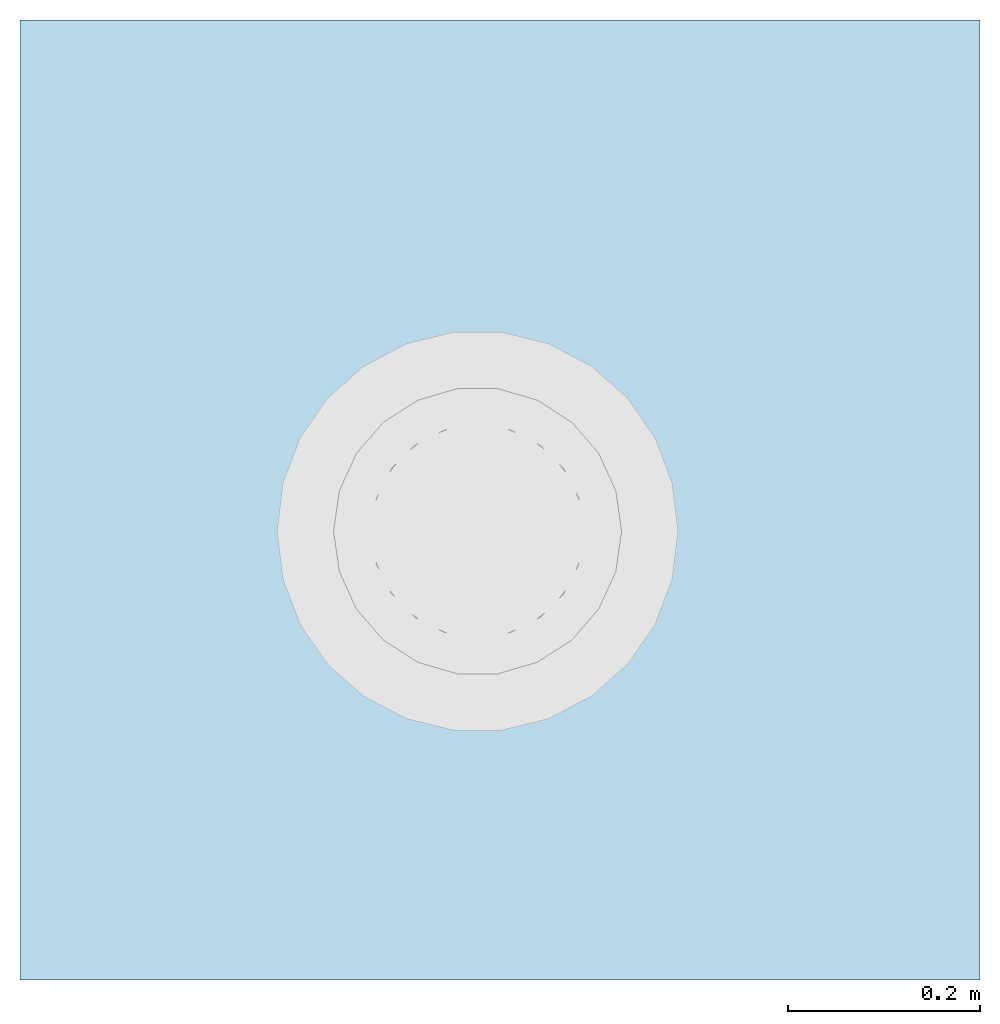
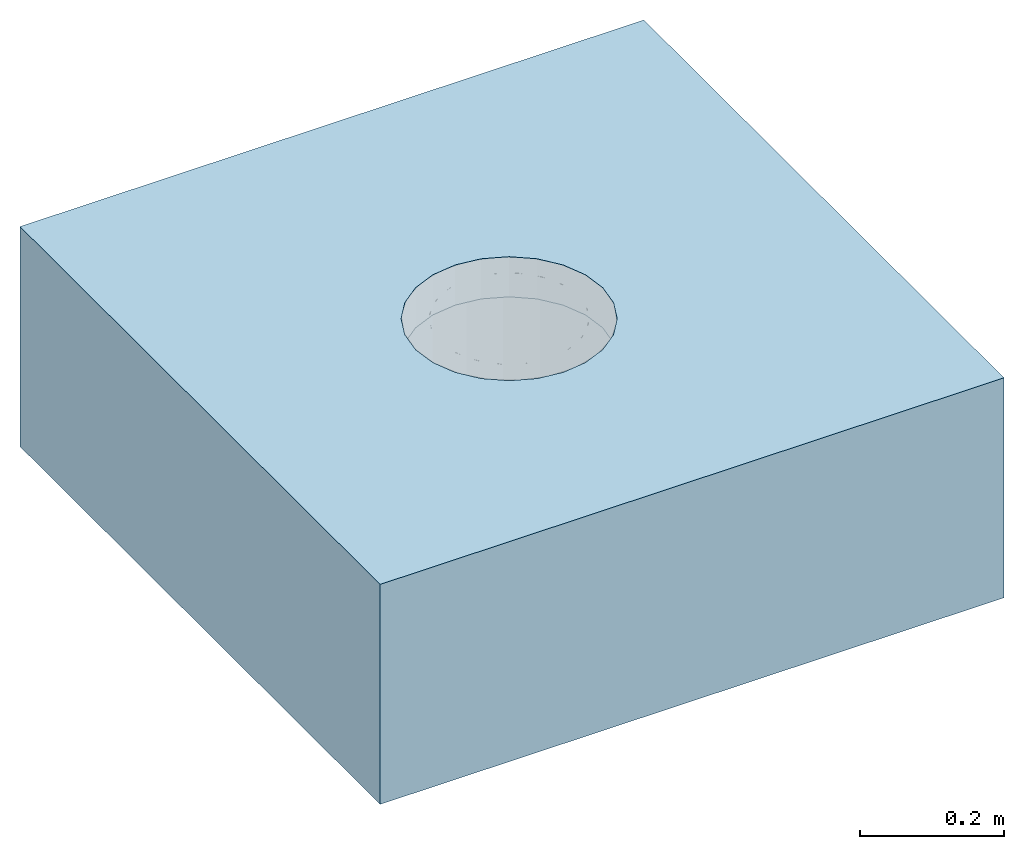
# One storey, incomplete: 1 slab, 1 opening.
"""IFC2X3 building model written with IfcOpenShell, lengths in millimetres."""

from ifc_helpers import new_model, entity, si_unit, converted_unit, derived_unit, direction, frame, frame_2d, origin, place, context, subcontext, project, spatial, rectangle, extrude, faceted_brep, material, layer, layer_set, layer_usage, element, save


model = new_model("IFC2X3")

# Units and contexts
model_context = context("Model", 3, precision=1e-05, world=origin(), true_north=direction((2.0, 6.12303176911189e-17, 1.0)))
context_of_model = context(None, 3, precision=1e-05, world=origin(), true_north=direction((2.0, 6.12303176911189e-17, 1.0)))
body_context = subcontext(model_context, "Body", "Model", "MODEL_VIEW")
ifc_project = project(units=[si_unit("LENGTHUNIT", "METRE", prefix="MILLI"), converted_unit("AREAUNIT", "SQUARE FOOT", entity("IfcRatioMeasure", 0.09290304), si_unit("AREAUNIT", "SQUARE_METRE"), dimensions=[2, 0, 0, 0, 0, 0, 0]), converted_unit("VOLUMEUNIT", "CUBIC FOOT", entity("IfcRatioMeasure", 0.028316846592), si_unit("VOLUMEUNIT", "CUBIC_METRE"), dimensions=[3, 0, 0, 0, 0, 0, 0]), converted_unit("PLANEANGLEUNIT", "DEGREE", entity("IfcRatioMeasure", 0.0174532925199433), si_unit("PLANEANGLEUNIT", "RADIAN"), dimensions=[0, 0, 0, 0, 0, 0, 0]), si_unit("MASSUNIT", "GRAM", prefix="KILO"), si_unit("TIMEUNIT", "SECOND"), si_unit("THERMODYNAMICTEMPERATUREUNIT", "KELVIN"), derived_unit("THERMALTRANSMITTANCEUNIT", [(si_unit("MASSUNIT", "GRAM", prefix="KILO"), 1), (si_unit("THERMODYNAMICTEMPERATUREUNIT", "KELVIN"), -1), (si_unit("TIMEUNIT", "SECOND"), -3)]), derived_unit("VOLUMETRICFLOWRATEUNIT", [(si_unit("LENGTHUNIT", "METRE"), 3), (si_unit("TIMEUNIT", "SECOND"), -1)]), si_unit("POWERUNIT", "WATT")], contexts=[model_context, context_of_model])

# Site, building, storey
site_placement = place(None, origin())
site = spatial("IfcSite", under=ifc_project, at=site_placement, Name="Default", CompositionType="ELEMENT")
building_placement = place(site_placement, origin())
building = spatial("IfcBuilding", under=site, at=building_placement, CompositionType="ELEMENT")
storey_placement = place(building_placement, origin())
storey = spatial("IfcBuildingStorey", under=building, at=storey_placement, Name="Level 1", CompositionType="ELEMENT", Elevation=0.0)

# Slab, opening
ifc_material_1 = material(Name="Plywood, Sheathing")
ifc_layer_1 = layer(ifc_material_1, 68.0)
ifc_material_2 = material(Name="Default Floor")
ifc_layer_2 = layer(ifc_material_2, 304.8)
ifc_layer_set = layer_set([ifc_layer_1, ifc_layer_2], Name="Floor:Generic - 12\"")
ifc_layer_usage = layer_usage(ifc_layer_set, "AXIS3", "POSITIVE", 0.0)
slab_placement = place(storey_placement, frame((-10598.0627721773, 2392.60708548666, -372.8)))
slab = element("IfcSlab", 1, at=slab_placement, inside=storey, material=ifc_layer_usage, Name="Floor:Generic - 12\"", ObjectType="Floor:Generic - 12\"", PredefinedType="FLOOR", context=body_context, shape_type="SweptSolid", body=[
    extrude(rectangle(XDim=1000.0, YDim=1000.0, at=frame_2d((0.0, 0.0), x_axis=(0.0, -1.0))), frame((500.0, 500.0, 372.8), z_axis=(0.0, 0.0, -1.0), x_axis=(-1.0, 0.0, 0.0)), (0.0, 0.0, 1.0), 372.8),
])
opening_placement = place(slab_placement, frame((264.098251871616, 253.374336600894, 57.799999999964)))
element("IfcOpeningElement", 2, at=opening_placement, cuts=slab, ObjectType="Recess", context=body_context, shape_type="Brep", body=[
    faceted_brep([(357.432614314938, 175.272996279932, 315.0), (212.545907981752, 64.097516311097, 315.0), (251.368183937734, 69.2085659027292, 315.0), (318.610338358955, 108.030841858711, 315.0), (287.544785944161, 84.1934050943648, 315.0), (342.447775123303, 139.096394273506, 315.0), (106.481477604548, 108.030841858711, 315.0), (357.432614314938, 252.917548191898, 315.0), (137.547030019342, 84.1934050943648, 315.0), (173.723632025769, 69.2085659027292, 315.0), (82.6440408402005, 139.096394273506, 315.0), (62.5481520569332, 214.095272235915, 315.0), (67.6592016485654, 175.272996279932, 315.0), (67.6592016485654, 252.917548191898, 315.0), (318.610338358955, 320.159702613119, 315.0), (342.447775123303, 289.094150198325, 315.0), (287.544785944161, 343.997139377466, 315.0), (251.368183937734, 358.981978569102, 315.0), (137.547030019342, 343.997139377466, 315.0), (106.481477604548, 320.159702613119, 315.0), (82.6440408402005, 289.094150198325, 315.0), (212.545907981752, 364.093028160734, 315.0), (173.723632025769, 358.981978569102, 315.0), (362.54366390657, 214.095272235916, 315.0), (357.432614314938, 252.917548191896, 247.0), (342.447775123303, 289.094150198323, 247.0), (362.54366390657, 214.095272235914, 247.0), (287.544785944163, 343.997139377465, 247.0), (251.368183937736, 358.981978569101, 247.0), (318.610338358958, 320.159702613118, 247.0), (212.545907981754, 364.093028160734, 247.0), (173.723632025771, 358.981978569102, 247.0), (137.547030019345, 343.997139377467, 247.0), (82.6440408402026, 289.094150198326, 247.0), (67.6592016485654, 252.917548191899, 247.0), (106.481477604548, 320.15970261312, 247.0), (62.5481520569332, 214.095272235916, 247.0), (67.6592016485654, 175.272996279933, 247.0), (82.6440408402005, 139.096394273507, 247.0), (137.547030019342, 84.1934050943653, 247.0), (173.723632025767, 69.2085659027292, 247.0), (106.481477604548, 108.030841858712, 247.0), (212.54590798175, 64.097516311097, 247.0), (251.368183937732, 69.2085659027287, 247.0), (287.544785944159, 84.1934050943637, 247.0), (318.610338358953, 108.03084185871, 247.0), (342.447775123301, 139.096394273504, 247.0), (357.432614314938, 175.27299627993, 247.0), (1.5952722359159, 188.48122768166, 0.0), (1.5952722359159, 239.709316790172, 0.0), (13.8549564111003, 289.448810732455, 0.0), (37.6618364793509, 334.809030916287, 0.0), (113.79223392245, 25.9358667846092, 0.0), (387.429979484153, 93.3815135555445, 0.0), (113.79223392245, 402.254677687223, 0.0), (71.6323431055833, 373.153806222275, 0.0), (13.8549564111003, 138.741733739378, 0.0), (37.6618364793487, 93.3815135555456, 0.0), (71.6323431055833, 55.036738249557, 0.0), (212.545907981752, 1.59527223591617, 0.0), (161.691329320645, 7.77013603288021, 0.0), (161.691329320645, 420.420408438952, 0.0), (353.459472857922, 373.153806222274, 0.0), (212.545907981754, 426.595272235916, 0.0), (263.400486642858, 420.420408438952, 0.0), (311.299582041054, 402.254677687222, 0.0), (423.496543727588, 188.481227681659, 0.0), (387.429979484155, 334.809030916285, 0.0), (423.496543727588, 239.709316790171, 0.0), (411.236859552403, 289.448810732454, 0.0), (263.400486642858, 7.77013603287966, 0.0), (353.45947285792, 55.0367382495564, 0.0), (311.299582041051, 25.9358667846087, 0.0), (411.236859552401, 138.741733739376, 0.0), (411.236859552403, 289.448810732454, 247.0), (387.429979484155, 334.809030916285, 247.0), (423.496543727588, 239.709316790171, 247.0), (353.459472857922, 373.153806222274, 247.0), (311.299582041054, 402.254677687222, 247.0), (263.400486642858, 420.420408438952, 247.0), (212.545907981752, 426.595272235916, 247.0), (423.496543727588, 188.481227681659, 247.0), (411.236859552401, 138.741733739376, 247.0), (387.429979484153, 93.3815135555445, 247.0), (353.45947285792, 55.0367382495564, 247.0), (311.299582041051, 25.9358667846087, 247.0), (263.400486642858, 7.77013603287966, 247.0), (212.545907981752, 1.59527223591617, 247.0), (161.691329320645, 420.420408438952, 247.0), (113.79223392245, 402.254677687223, 247.0), (71.6323431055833, 373.153806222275, 247.0), (37.6618364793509, 334.809030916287, 247.0), (13.8549564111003, 289.448810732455, 247.0), (1.5952722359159, 239.709316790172, 247.0), (113.79223392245, 25.9358667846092, 247.0), (71.6323431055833, 55.036738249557, 247.0), (161.691329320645, 7.77013603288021, 247.0), (1.5952722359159, 188.48122768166, 247.0), (13.8549564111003, 138.741733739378, 247.0), (37.6618364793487, 93.3815135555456, 247.0)], [[[0, 1, 2]], [[3, 2, 4]], [[3, 5, 0]], [[3, 0, 2]], [[6, 1, 7]], [[1, 8, 9]], [[1, 6, 8]], [[10, 11, 12]], [[11, 10, 6]], [[6, 13, 11]], [[7, 1, 0]], [[13, 6, 7]], [[14, 7, 15]], [[14, 16, 17]], [[7, 14, 18]], [[17, 18, 14]], [[13, 19, 20]], [[19, 13, 18]], [[18, 21, 22]], [[18, 13, 7]], [[17, 21, 18]], [[7, 0, 23]], [[24, 25, 15]], [[26, 24, 7]], [[27, 28, 17]], [[29, 27, 16]], [[25, 29, 14]], [[24, 15, 7]], [[7, 23, 26]], [[14, 15, 25]], [[14, 29, 16]], [[16, 27, 17]], [[21, 17, 28]], [[28, 30, 21]], [[22, 30, 31]], [[22, 31, 32]], [[33, 34, 20]], [[35, 33, 19]], [[32, 35, 18]], [[22, 32, 18]], [[18, 35, 19]], [[34, 13, 20]], [[20, 19, 33]], [[11, 13, 36]], [[34, 36, 13]], [[30, 22, 21]], [[37, 38, 10]], [[36, 37, 12]], [[39, 40, 9]], [[41, 39, 8]], [[38, 41, 6]], [[37, 10, 12]], [[12, 11, 36]], [[9, 8, 39]], [[6, 41, 8]], [[6, 10, 38]], [[1, 9, 40]], [[40, 42, 1]], [[4, 43, 44]], [[2, 42, 43]], [[3, 45, 46]], [[45, 4, 44]], [[5, 46, 47]], [[2, 43, 4]], [[4, 45, 3]], [[47, 0, 5]], [[5, 3, 46]], [[23, 0, 26]], [[47, 26, 0]], [[42, 2, 1]], [[48, 49, 50]], [[51, 48, 50]], [[52, 51, 53]], [[54, 51, 55]], [[53, 51, 54]], [[56, 52, 57]], [[52, 56, 48]], [[58, 57, 52]], [[59, 60, 52]], [[51, 52, 48]], [[52, 53, 59]], [[54, 61, 53]], [[62, 63, 64]], [[62, 64, 65]], [[66, 62, 67]], [[62, 53, 63]], [[68, 67, 69]], [[70, 71, 72]], [[70, 59, 71]], [[66, 73, 62]], [[53, 62, 73]], [[59, 53, 71]], [[66, 67, 68]], [[53, 61, 63]], [[25, 74, 75]], [[29, 25, 75]], [[74, 24, 76]], [[24, 74, 25]], [[76, 24, 26]], [[75, 77, 29]], [[28, 78, 79]], [[30, 79, 80]], [[28, 79, 30]], [[29, 77, 27]], [[28, 27, 78]], [[27, 77, 78]], [[81, 26, 47]], [[26, 81, 76]], [[81, 47, 82]], [[82, 46, 83]], [[84, 83, 45]], [[46, 82, 47]], [[44, 85, 84]], [[44, 84, 45]], [[86, 85, 43]], [[43, 42, 86]], [[85, 44, 43]], [[86, 42, 87]], [[45, 83, 46]], [[30, 88, 31]], [[31, 88, 89]], [[32, 31, 89]], [[90, 35, 32]], [[32, 89, 90]], [[35, 91, 33]], [[33, 91, 92]], [[92, 34, 33]], [[34, 92, 93]], [[34, 93, 36]], [[91, 35, 90]], [[94, 39, 95]], [[40, 39, 94]], [[96, 87, 42]], [[96, 40, 94]], [[39, 41, 95]], [[42, 40, 96]], [[37, 36, 97]], [[97, 36, 93]], [[37, 97, 98]], [[99, 41, 38]], [[41, 99, 95]], [[98, 99, 38]], [[38, 37, 98]], [[30, 80, 88]], [[87, 59, 70]], [[72, 86, 70]], [[53, 73, 83]], [[84, 71, 53]], [[85, 72, 71]], [[82, 73, 66]], [[70, 86, 87]], [[72, 85, 86]], [[71, 84, 85]], [[53, 83, 84]], [[82, 83, 73]], [[66, 81, 82]], [[66, 68, 81]], [[76, 68, 69]], [[67, 74, 69]], [[65, 64, 78]], [[77, 62, 65]], [[75, 67, 62]], [[79, 64, 63]], [[69, 74, 76]], [[67, 75, 74]], [[62, 77, 75]], [[65, 78, 77]], [[79, 78, 64]], [[63, 80, 79]], [[68, 76, 81]], [[88, 63, 61]], [[89, 61, 54]], [[91, 51, 50]], [[90, 55, 51]], [[55, 90, 54]], [[49, 92, 50]], [[63, 88, 80]], [[88, 61, 89]], [[90, 51, 91]], [[91, 50, 92]], [[49, 93, 92]], [[89, 54, 90]], [[49, 48, 93]], [[97, 48, 56]], [[57, 98, 56]], [[52, 60, 94]], [[95, 58, 52]], [[99, 57, 58]], [[96, 60, 59]], [[56, 98, 97]], [[57, 99, 98]], [[58, 95, 99]], [[52, 94, 95]], [[96, 94, 60]], [[59, 87, 96]], [[48, 97, 93]]]),
])

save(model, "model.ifc")
